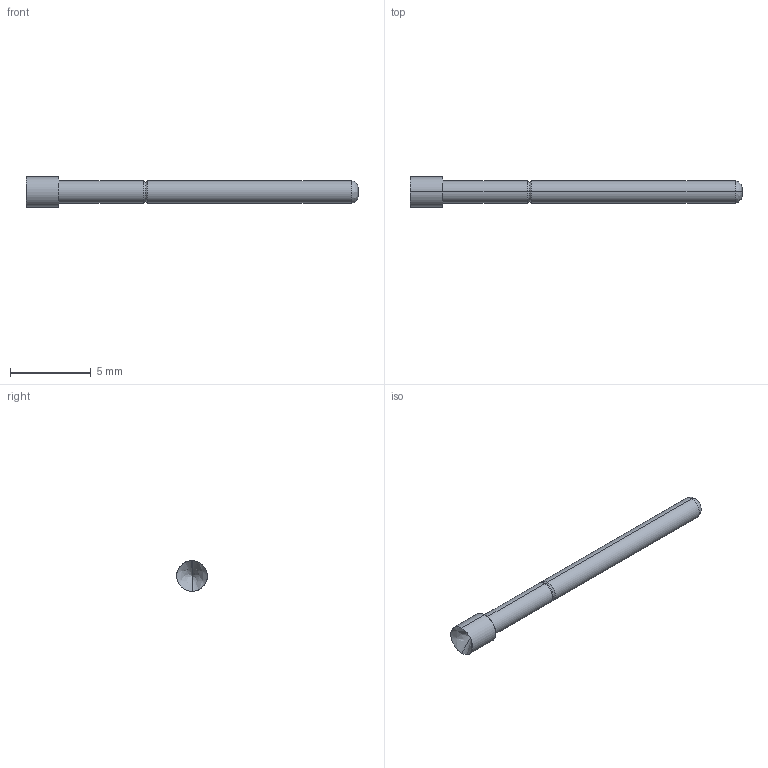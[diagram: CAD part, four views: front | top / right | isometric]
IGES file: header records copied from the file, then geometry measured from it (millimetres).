
Start section: SolidWorks IGES file using analytic representation for surfaces
Global section: file name: Z:\probe solid model mockups\Solidworks models\IGES Files\EPA-2\EPA-2A Full.IGS; native system: SolidWorks 2006 by SolidWorks Corporation; preprocessor: SolidWorks 2006 by SolidWorks Corporation; author: tsakatani; date: 071220.161217; units: inch
Bounding box: 20.57 x 1.91 x 1.91 mm (x, y, z)
Surface area: 98.2 mm2 (no closed solid volume)
Topology: 0 solids, 0 shells, 16 faces, 120 edges, 118 vertices
Faces by surface type: bspline 8, revolution 8
